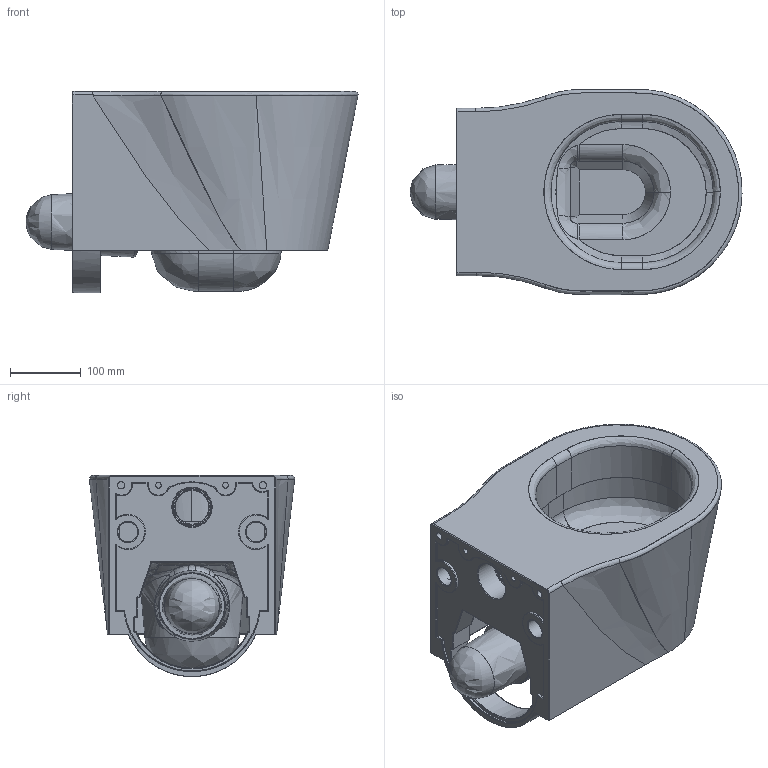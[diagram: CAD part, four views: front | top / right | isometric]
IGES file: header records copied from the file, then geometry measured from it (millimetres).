
Start section: C
Global section: file name: Bucket Kids Hung WC.igs; native system:  By UGS Corp.; preprocessor: XPlus GENERIC/IGES 3.0; author: Author; organization: Title; date: 20140113.105331; units: millimetre
Bounding box: 470.31 x 290.67 x 284.86 mm (x, y, z)
Surface area: 1108111 mm2 (no closed solid volume)
Topology: 0 solids, 0 shells, 406 faces, 2196 edges, 2160 vertices
Faces by surface type: bspline 406
